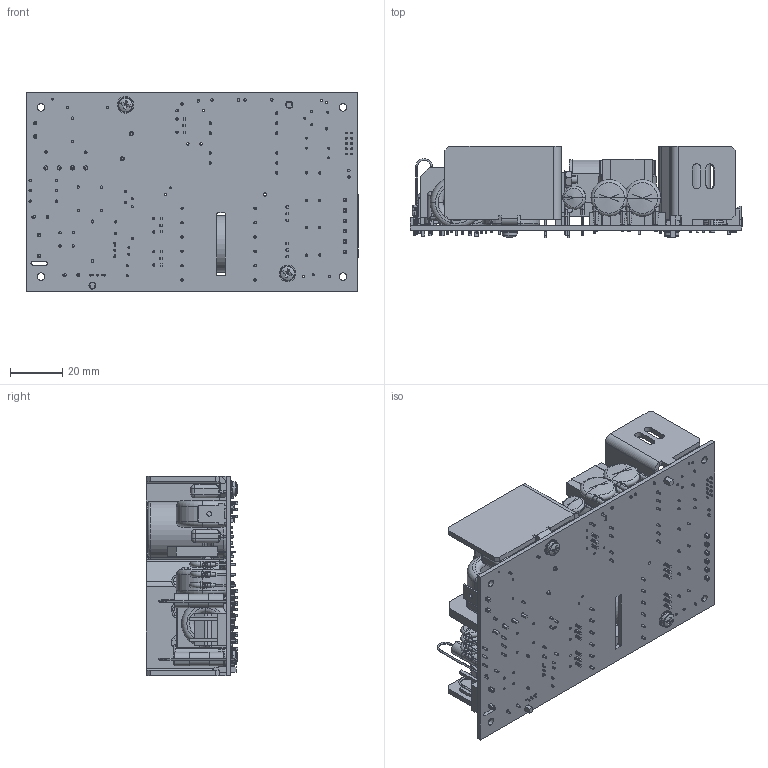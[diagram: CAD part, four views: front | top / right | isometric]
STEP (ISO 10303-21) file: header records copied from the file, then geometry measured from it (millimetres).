
FILE_DESCRIPTION (( 'STEP AP214' ), '1' );
FILE_NAME ('GCS150 SINGLE OUTPUT.STEP', '2012-10-09T15:27:12', ( '' ), ( '' ), 'SwSTEP 2.0', 'SolidWorks 2011', '' );
FILE_SCHEMA (( 'AUTOMOTIVE_DESIGN' ));
Length unit declared in the file: inch
Products named in the file (35): Therm_.350 D X .250 LS; Capacitor Disc_0.550 D_0.400" C; Faston .25 X .032; Conn_MLX_KK100_Hdr_02P; Capacitor Disc_0.300 D_0.250" C; Pot_Top adj_Type1_01; Conn_JST_S10B-PHDSS-B_Vertical; Capacitor Elec_08mm D_13mm H; Capacitor Elec_10mm D_25mm; FHP_100dg_6-32x.250lg; Nut_hex_6-32_RP_KEPS; Screw_Sq Cone_no 4_01_.250"; 10013216 01; Xxmr_1050x1150x1000_12p; Xfmr_GCS150; TO220_3P_01; Nut_Keps_4-40_Star_01; Screw_Flat Head Phillips (Metric)_(1314)_M3 x 8; 10013215 01; Capacitor Elec_22mm D_30mm H; Capacitor Elec_06.3mm D_13mm H; Capacitor Elec_8mm D_20mm; RES-3W; TO92_01; Capacitor Film_18x11mm_15 LS_19mm H; Inductor Toroid_18.0mm OD_7mm Width; Inductor Toroid_20.0mm OD_10mm Width; CAP FILM_17x5x11MM_15LS; Bridge Rectifier_GBU6K_Lead trimed; Capacitor Disc_0.300 D X .40 LS; FUSE-0; CON MLX  .156 06P; CON MLX  .156 3P; 10012490A0; GCS150 SINGLE OUTPUT
Assembly tree (59 placements, depth 2):
  GCS150 SINGLE OUTPUT
    Capacitor Disc_0.300 D_0.250" C  x2
    Nut_hex_6-32_RP_KEPS  x2
    Nut_Keps_4-40_Star_01  x3
    CAP FILM_17x5x11MM_15LS  x3
    FUSE-0  x2
    CON MLX  .156 06P
    FHP_100dg_6-32x.250lg  x2
    10013216 01
    TO220_3P_01  x5
    Capacitor Disc_0.300 D X .40 LS  x3
    Capacitor Disc_0.550 D_0.400" C  x2
    Screw_Sq Cone_no 4_01_.250"  x2
    Capacitor Elec_06.3mm D_13mm H
    CON MLX  .156 3P
    Pot_Top adj_Type1_01
    Screw_Flat Head Phillips (Metric)_(1314)_M3 x 8  x3
    Capacitor Elec_8mm D_20mm
    Therm_.350 D X .250 LS
    TO92_01  x2
    10012490A0
    Capacitor Elec_08mm D_13mm H  x2
    Capacitor Elec_10mm D_25mm  x4
    Inductor Toroid_18.0mm OD_7mm Width
    Inductor Toroid_20.0mm OD_10mm Width  x2
    Capacitor Elec_22mm D_30mm H
    RES-3W  x2
    Capacitor Film_18x11mm_15 LS_19mm H
    Conn_MLX_KK100_Hdr_02P
    Xxmr_1050x1150x1000_12p
    10013215 01
    Xfmr_GCS150
    Conn_JST_S10B-PHDSS-B_Vertical
    Bridge Rectifier_GBU6K_Lead trimed
    Faston .25 X .032
Bounding box: 127 x 34.92 x 76.21 mm (x, y, z)
Volume: 108419.7 mm3; surface area: 81210.8 mm2
Topology: 84 solids, 101 shells, 3247 faces, 7856 edges, 4932 vertices
Faces by surface type: plane 1697, cylinder 992, cone 212, torus 206, bspline 118, sphere 22
Entity records: 81996 total; most frequent: CARTESIAN_POINT 14100, DIRECTION 11490, ORIENTED_EDGE 10716, EDGE_CURVE 5358, AXIS2_PLACEMENT_3D 4130, VERTEX_POINT 3416, LINE 3230, VECTOR 3230
